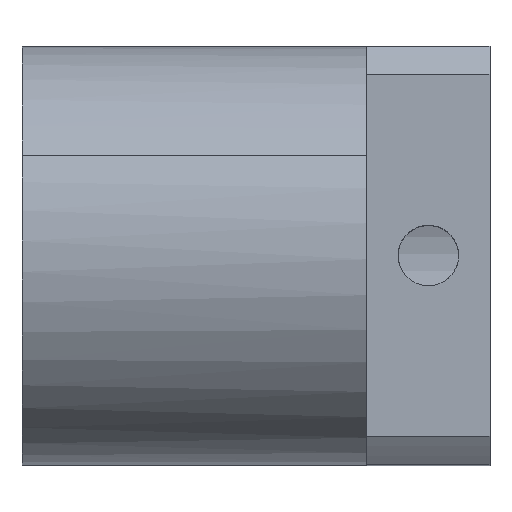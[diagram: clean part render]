
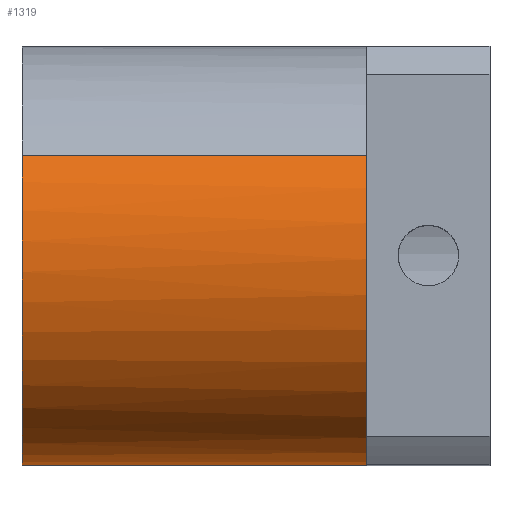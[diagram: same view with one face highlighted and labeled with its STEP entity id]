
A CAD part, top view. The second image highlights one B-rep face of the part: STEP entity #1319.
In plain terms, the highlighted cylindrical face has radius 17 mm (diameter 34 mm), a partial arc.
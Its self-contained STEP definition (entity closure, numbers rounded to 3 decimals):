
#689=CARTESIAN_POINT('Vertex',(-10.,-17.,0.)) ;
#1014=CARTESIAN_POINT('Axis2P3D Location',(-10.,0.,0.)) ;
#1018=CARTESIAN_POINT('Vertex',(-10.,-8.15,-14.919)) ;
#1076=CARTESIAN_POINT('Vertex',(-10.,8.15,14.919)) ;
#1079=CARTESIAN_POINT('Axis2P3D Location',(-10.,0.,0.)) ;
#1164=CARTESIAN_POINT('Control Point',(-38.,-8.15,-14.919)) ;
#1165=CARTESIAN_POINT('Control Point',(-38.,-9.568,-14.144)) ;
#1166=CARTESIAN_POINT('Control Point',(-38.,-10.894,-13.201)) ;
#1167=CARTESIAN_POINT('Control Point',(-38.,-12.102,-12.104)) ;
#1168=CARTESIAN_POINT('Control Point',(-38.,-14.232,-9.644)) ;
#1169=CARTESIAN_POINT('Control Point',(-38.,-15.727,-6.753)) ;
#1170=CARTESIAN_POINT('Control Point',(-38.,-16.299,-5.225)) ;
#1171=CARTESIAN_POINT('Control Point',(-38.,-17.068,-2.062)) ;
#1172=CARTESIAN_POINT('Control Point',(-38.,-17.074,1.192)) ;
#1173=CARTESIAN_POINT('Control Point',(-38.,-16.883,2.812)) ;
#1174=CARTESIAN_POINT('Control Point',(-38.,-16.12,5.976)) ;
#1175=CARTESIAN_POINT('Control Point',(-38.,-14.636,8.873)) ;
#1176=CARTESIAN_POINT('Control Point',(-38.,-13.725,10.226)) ;
#1177=CARTESIAN_POINT('Control Point',(-38.,-11.599,12.69)) ;
#1178=CARTESIAN_POINT('Control Point',(-38.,-8.954,14.587)) ;
#1179=CARTESIAN_POINT('Control Point',(-38.,-7.525,15.373)) ;
#1180=CARTESIAN_POINT('Control Point',(-38.,-4.507,16.591)) ;
#1181=CARTESIAN_POINT('Control Point',(-38.,-1.287,17.067)) ;
#1182=CARTESIAN_POINT('Control Point',(-38.,0.344,17.112)) ;
#1183=CARTESIAN_POINT('Control Point',(-38.,2.953,16.872)) ;
#1184=CARTESIAN_POINT('Control Point',(-38.,5.458,16.145)) ;
#1185=CARTESIAN_POINT('Control Point',(-38.,6.386,15.802)) ;
#1186=CARTESIAN_POINT('Control Point',(-38.,7.285,15.392)) ;
#1187=CARTESIAN_POINT('Control Point',(-38.,8.15,14.919)) ;
#1188=CARTESIAN_POINT('Vertex',(-38.,8.15,14.919)) ;
#1190=CARTESIAN_POINT('Vertex',(-38.,-8.15,-14.919)) ;
#1297=CARTESIAN_POINT('Axis2P3D Location',(-88.411,0.,0.)) ;
#1302=CARTESIAN_POINT('Line Origine',(-88.411,-8.15,-14.919)) ;
#1307=CARTESIAN_POINT('Line Origine',(-88.411,8.15,14.919)) ;
#1015=DIRECTION('Axis2P3D Direction',(-1.,0.,0.)) ;
#1080=DIRECTION('Axis2P3D Direction',(-1.,0.,0.)) ;
#1298=DIRECTION('Axis2P3D Direction',(-1.,0.,0.)) ;
#1299=DIRECTION('Axis2P3D XDirection',(0.,-0.479,-0.878)) ;
#1303=DIRECTION('Vector Direction',(-1.,0.,0.)) ;
#1308=DIRECTION('Vector Direction',(-1.,0.,0.)) ;
#1016=AXIS2_PLACEMENT_3D('Circle Axis2P3D',#1014,#1015,$) ;
#1081=AXIS2_PLACEMENT_3D('Circle Axis2P3D',#1079,#1080,$) ;
#1300=AXIS2_PLACEMENT_3D('Cylinder Axis2P3D',#1297,#1298,#1299) ;
#1313=ORIENTED_EDGE('',*,*,#1306,.F.) ;
#1314=ORIENTED_EDGE('',*,*,#1020,.T.) ;
#1315=ORIENTED_EDGE('',*,*,#1083,.T.) ;
#1316=ORIENTED_EDGE('',*,*,#1311,.T.) ;
#1317=ORIENTED_EDGE('',*,*,#1192,.T.) ;
#1304=VECTOR('Line Direction',#1303,1.) ;
#1309=VECTOR('Line Direction',#1308,1.) ;
#1319=ADVANCED_FACE('PartBody',(#1318),#1301,.T.) ;
#1163=B_SPLINE_CURVE_WITH_KNOTS('',5,(#1164,#1165,#1166,#1167,#1168,#1169,#1170,#1171,#1172,#1173,#1174,#1175,#1176,#1177,#1178,#1179,#1180,#1181,#1182,#1183,#1184,#1185,#1186,#1187),.UNSPECIFIED.,.F.,.U.,(6,3,3,3,3,3,3,6),(0.,11.426,22.852,34.279,45.705,57.131,68.557,75.528),.UNSPECIFIED.) ;
#1017=CIRCLE('generated circle',#1016,17.) ;
#1082=CIRCLE('generated circle',#1081,17.) ;
#1301=CYLINDRICAL_SURFACE('generated cylinder',#1300,17.) ;
#1020=EDGE_CURVE('',#1019,#690,#1017,.T.) ;
#1083=EDGE_CURVE('',#690,#1077,#1082,.T.) ;
#1192=EDGE_CURVE('',#1189,#1191,#1163,.F.) ;
#1306=EDGE_CURVE('',#1019,#1191,#1305,.T.) ;
#1311=EDGE_CURVE('',#1077,#1189,#1310,.T.) ;
#1312=EDGE_LOOP('',(#1313,#1314,#1315,#1316,#1317)) ;
#1318=FACE_OUTER_BOUND('',#1312,.T.) ;
#1305=LINE('Line',#1302,#1304) ;
#1310=LINE('Line',#1307,#1309) ;
#690=VERTEX_POINT('',#689) ;
#1019=VERTEX_POINT('',#1018) ;
#1077=VERTEX_POINT('',#1076) ;
#1189=VERTEX_POINT('',#1188) ;
#1191=VERTEX_POINT('',#1190) ;
